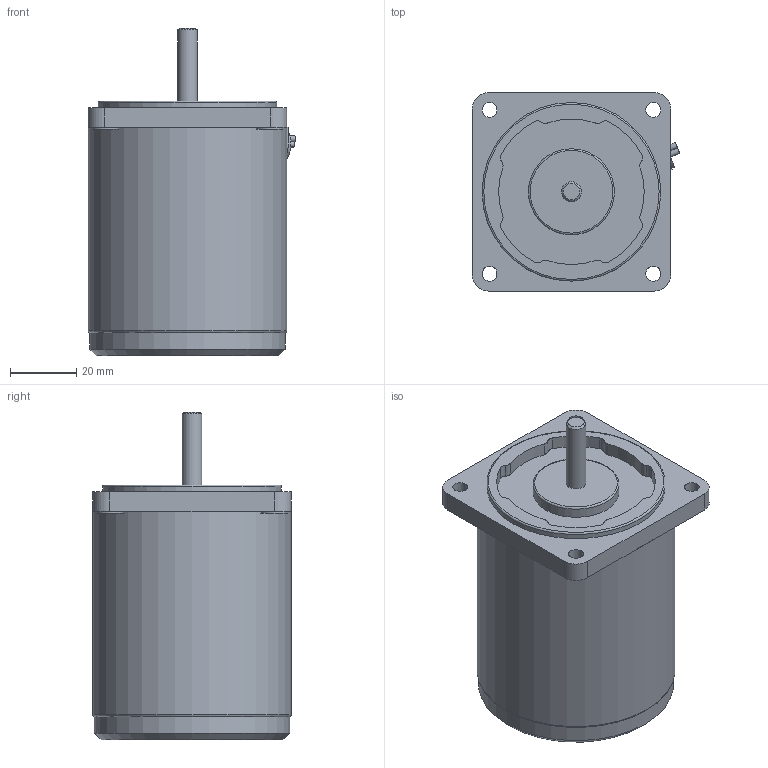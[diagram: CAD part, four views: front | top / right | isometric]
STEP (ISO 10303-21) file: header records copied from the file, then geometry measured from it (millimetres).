
FILE_DESCRIPTION((''),'2;1');
FILE_NAME('E:\2공장-도면\3D\표준형 3D(민규)\step file\K6IS6Nㅁ.stp','2014-11-11T17:19:22',('AHN'),(''),'Autodesk Inventor 2012','Autodesk Inventor 2012','');
FILE_SCHEMA(('CONFIG_CONTROL_DESIGN'));
Length unit declared in the file: millimetre
Products named in the file (1): K6IS6Nㅁ
Bounding box: 62.76 x 60 x 99 mm (x, y, z)
Volume: 215780.9 mm3; surface area: 23216.7 mm2
Topology: 1 solids, 1 shells, 82 faces, 192 edges, 118 vertices
Faces by surface type: cylinder 49, plane 28, torus 3, cone 2
Full cylindrical faces by diameter (mm): 4.5 x4, 6 x1, 8 x4, 10 x1, 26 x1, 54 x1, 59 x1, 60 x1
Entity records: 2314 total; most frequent: DIRECTION 442, CARTESIAN_POINT 387, ORIENTED_EDGE 344, AXIS2_PLACEMENT_3D 188, EDGE_CURVE 172, EDGE_LOOP 117, VERTEX_POINT 115, CIRCLE 105
